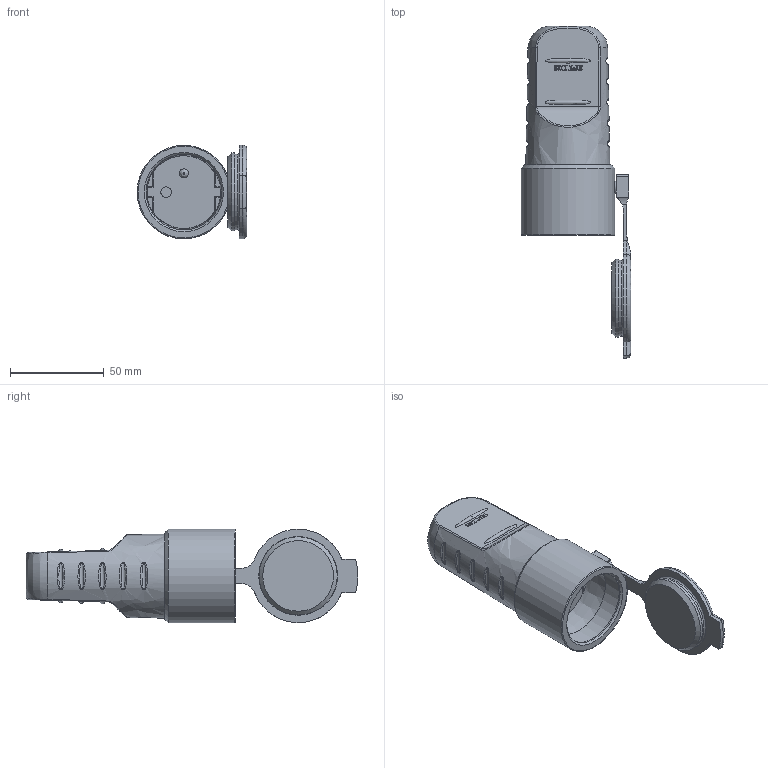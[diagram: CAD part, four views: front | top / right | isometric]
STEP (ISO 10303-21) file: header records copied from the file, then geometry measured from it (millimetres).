
FILE_DESCRIPTION(/* description */ (''),/* implementation_level */ '2;1');
FILE_NAME(/* name */ '4006578.stp',/* time_stamp */ '2016-09-26T16:07:02+02:00',/* author */ (''),/* organization */ (''),/* preprocessor_version */ 'ST-DEVELOPER v16',/* originating_system */ 'SIEMENS PLM Software NX 11.0',/* authorisation */ '');
FILE_SCHEMA (('AUTOMOTIVE_DESIGN { 1 0 10303 214 3 1 1 1 }'));
Length unit declared in the file: millimetre
Products named in the file (1): 4006578_LINKEDEXT_jt
Bounding box: 58.71 x 177.53 x 50.1 mm (x, y, z)
Surface area: 29847.2 mm2 (no closed solid volume)
Topology: 0 solids, 28 shells, 172 faces, 617 edges, 492 vertices
Faces by surface type: plane 49, cylinder 49, bspline 39, cone 18, torus 11, revolution 5, extrusion 1
Full cylindrical faces by diameter (mm): 4.5 x1, 5.6 x1, 6.5 x1, 6.999 x1, 7.9 x1, 8 x1, 10 x1, 12.5 x1, 40.4 x1, 40.5 x1, 41.8 x1, 50 x1
Entity records: 11837 total; most frequent: CARTESIAN_POINT 6092, DIRECTION 825, ORIENTED_EDGE 770, EDGE_CURVE 545, VERTEX_POINT 460, AXIS2_PLACEMENT_3D 314, EDGE_LOOP 236, VECTOR 192
